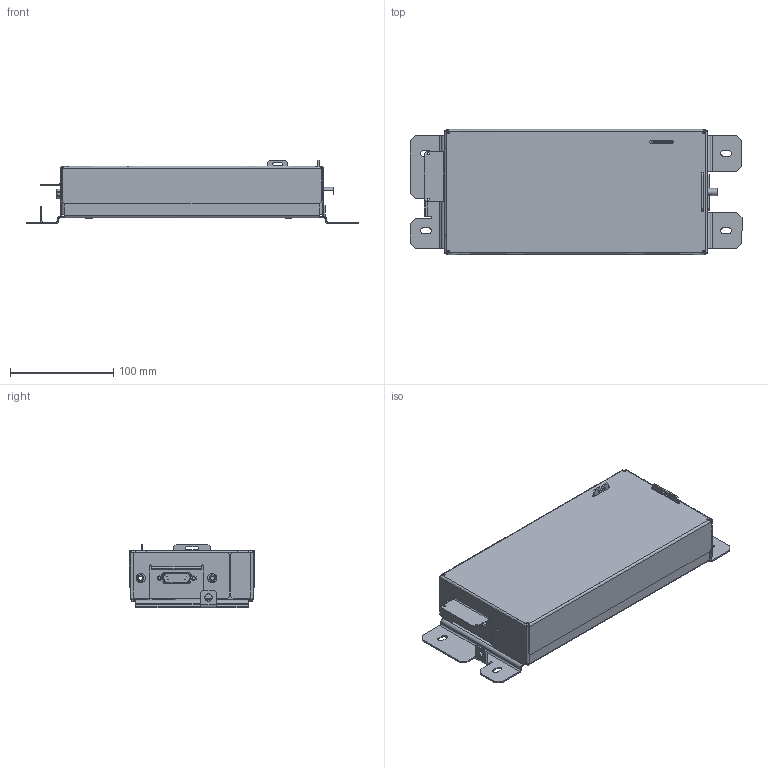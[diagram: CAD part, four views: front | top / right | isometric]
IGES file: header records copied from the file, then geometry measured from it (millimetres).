
Start section: Elysium IGES Interface
Global section: file name: U:\BLACKBOX DIVERSES\ITC_2000_electronic_blackbox.igs; native system: Creo Elements/Direct Modeling 17.0E  05-Feb-2012; preprocessor: Creo Element/Direct IGES_3D V2.2; author: Unknown; organization: Unknown; date: 20140722.114944; units: millimetre
Bounding box: 322.19 x 121.5 x 61.91 mm (x, y, z)
Volume: 59478.2 mm3; surface area: 262564.1 mm2
Topology: 12 solids, 19 shells, 704 faces, 1900 edges, 1247 vertices
Faces by surface type: bspline 704
